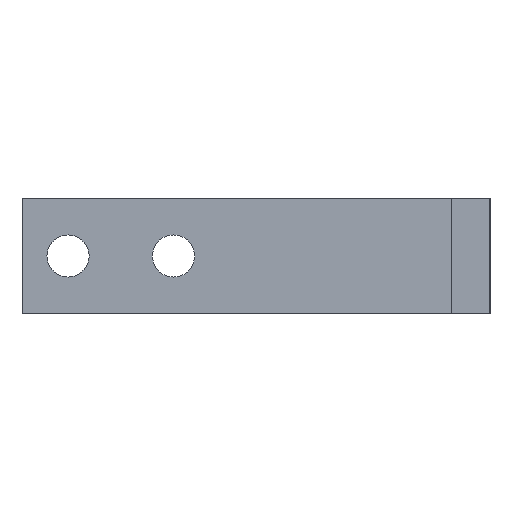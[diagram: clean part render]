
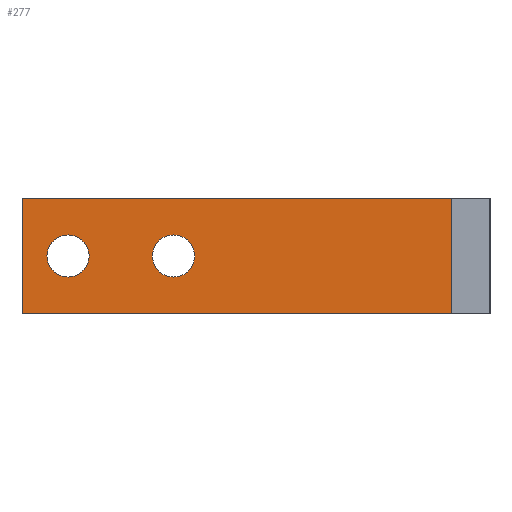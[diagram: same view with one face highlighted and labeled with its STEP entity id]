
A CAD part, left-side view. The second image highlights one B-rep face of the part: STEP entity #277.
In plain terms, the highlighted planar face has unit normal (-1, 0, 0).
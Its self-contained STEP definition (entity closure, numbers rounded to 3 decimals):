
#15=FACE_BOUND('',#54,.T.);
#16=FACE_BOUND('',#55,.T.);
#25=PLANE('',#311);
#37=FACE_OUTER_BOUND('',#53,.T.);
#53=EDGE_LOOP('',(#205,#206,#207,#208));
#54=EDGE_LOOP('',(#209));
#55=EDGE_LOOP('',(#210));
#79=LINE('',#431,#103);
#80=LINE('',#433,#104);
#81=LINE('',#435,#105);
#82=LINE('',#436,#106);
#103=VECTOR('',#351,10.);
#104=VECTOR('',#352,10.);
#105=VECTOR('',#353,10.);
#106=VECTOR('',#354,10.);
#125=CIRCLE('',#306,2.2);
#127=CIRCLE('',#309,2.2);
#137=VERTEX_POINT('',#417);
#139=VERTEX_POINT('',#423);
#141=VERTEX_POINT('',#429);
#142=VERTEX_POINT('',#430);
#143=VERTEX_POINT('',#432);
#144=VERTEX_POINT('',#434);
#161=EDGE_CURVE('',#137,#137,#125,.T.);
#164=EDGE_CURVE('',#139,#139,#127,.T.);
#167=EDGE_CURVE('',#141,#142,#79,.T.);
#168=EDGE_CURVE('',#141,#143,#80,.T.);
#169=EDGE_CURVE('',#144,#143,#81,.T.);
#170=EDGE_CURVE('',#142,#144,#82,.T.);
#205=ORIENTED_EDGE('',*,*,#167,.F.);
#206=ORIENTED_EDGE('',*,*,#168,.T.);
#207=ORIENTED_EDGE('',*,*,#169,.F.);
#208=ORIENTED_EDGE('',*,*,#170,.F.);
#209=ORIENTED_EDGE('',*,*,#161,.T.);
#210=ORIENTED_EDGE('',*,*,#164,.T.);
#277=ADVANCED_FACE('',(#37,#15,#16),#25,.T.);
#306=AXIS2_PLACEMENT_3D('',#418,#337,#338);
#309=AXIS2_PLACEMENT_3D('',#424,#344,#345);
#311=AXIS2_PLACEMENT_3D('',#428,#349,#350);
#337=DIRECTION('center_axis',(1.,0.,0.));
#338=DIRECTION('ref_axis',(0.,0.,1.));
#344=DIRECTION('center_axis',(1.,0.,0.));
#345=DIRECTION('ref_axis',(0.,0.,1.));
#349=DIRECTION('center_axis',(-1.,0.,0.));
#350=DIRECTION('ref_axis',(0.,0.,1.));
#351=DIRECTION('',(0.,0.,-1.));
#352=DIRECTION('',(0.,1.,0.));
#353=DIRECTION('',(0.,0.,1.));
#354=DIRECTION('',(0.,1.,0.));
#417=CARTESIAN_POINT('',(76.2,33.,-8.2));
#418=CARTESIAN_POINT('Origin',(76.2,33.,-6.));
#423=CARTESIAN_POINT('',(76.2,44.,-8.2));
#424=CARTESIAN_POINT('Origin',(76.2,44.,-6.));
#428=CARTESIAN_POINT('Origin',(76.2,4.,-12.));
#429=CARTESIAN_POINT('',(76.2,4.,0.));
#430=CARTESIAN_POINT('',(76.2,4.,-12.));
#431=CARTESIAN_POINT('',(76.2,4.,-9.));
#432=CARTESIAN_POINT('',(76.2,48.8,0.));
#433=CARTESIAN_POINT('',(76.2,4.,0.));
#434=CARTESIAN_POINT('',(76.2,48.8,-12.));
#435=CARTESIAN_POINT('',(76.2,48.8,-12.));
#436=CARTESIAN_POINT('',(76.2,4.,-12.));
